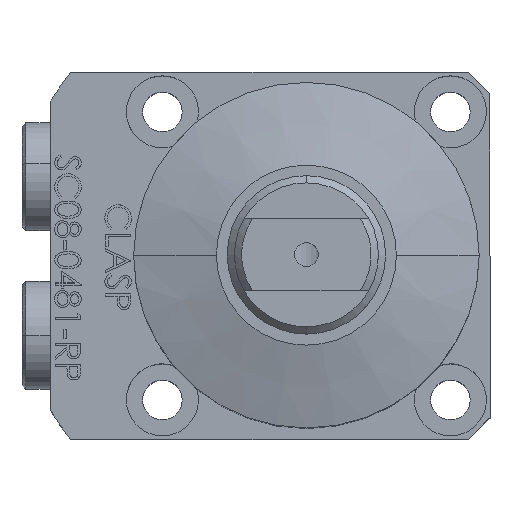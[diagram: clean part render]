
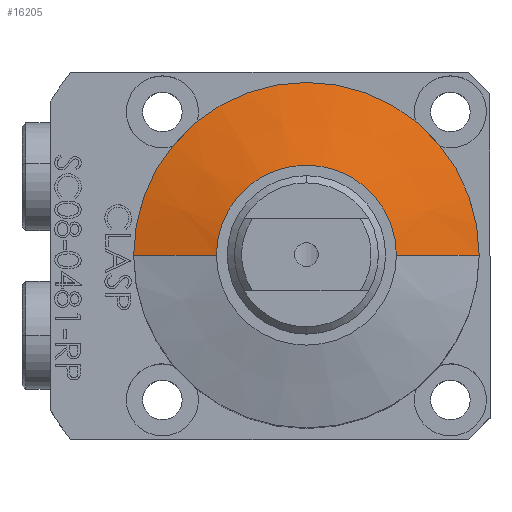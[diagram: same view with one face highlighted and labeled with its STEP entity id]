
A CAD part, top view. The second image highlights one B-rep face of the part: STEP entity #16205.
In plain terms, the highlighted conical face has half-angle 75 degrees and reference radius 60 mm.
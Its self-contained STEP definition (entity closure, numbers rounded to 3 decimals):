
#148 = DIRECTION ( 'NONE',  ( 0., 0., 1. ) ) ;
#225 = DIRECTION ( 'NONE',  ( 0.966, 0., -0.259 ) ) ;
#331 = CARTESIAN_POINT ( 'NONE',  ( -12.5, 0., 80. ) ) ;
#534 = EDGE_CURVE ( 'NONE', #7814, #10719, #2536, .T. ) ;
#2000 = DIRECTION ( 'NONE',  ( -0.966, 0., -0.259 ) ) ;
#2536 = LINE ( 'NONE', #7887, #5905 ) ;
#3962 = AXIS2_PLACEMENT_3D ( 'NONE', #5903, #15080, #7182 ) ;
#4218 = AXIS2_PLACEMENT_3D ( 'NONE', #12431, #4653, #14975 ) ;
#4637 = CARTESIAN_POINT ( 'NONE',  ( 24., 0., 76.919 ) ) ;
#4653 = DIRECTION ( 'NONE',  ( 0., 0., -1. ) ) ;
#5006 = CARTESIAN_POINT ( 'NONE',  ( 12.5, 0., 80. ) ) ;
#5111 = VECTOR ( 'NONE', #2000, 1000. ) ;
#5485 = ORIENTED_EDGE ( 'NONE', *, *, #9775, .T. ) ;
#5903 = CARTESIAN_POINT ( 'NONE',  ( 0., 0., 76.919 ) ) ;
#5905 = VECTOR ( 'NONE', #225, 1000. ) ;
#6567 = EDGE_LOOP ( 'NONE', ( #12278, #16359, #5485, #7184 ) ) ;
#6672 = CARTESIAN_POINT ( 'NONE',  ( -24., 0., 76.919 ) ) ;
#7073 = CARTESIAN_POINT ( 'NONE',  ( -60., 0., 67.272 ) ) ;
#7182 = DIRECTION ( 'NONE',  ( -1., 0., 0. ) ) ;
#7184 = ORIENTED_EDGE ( 'NONE', *, *, #11083, .F. ) ;
#7803 = CARTESIAN_POINT ( 'NONE',  ( 0., 0., 80. ) ) ;
#7814 = VERTEX_POINT ( 'NONE', #5006 ) ;
#7887 = CARTESIAN_POINT ( 'NONE',  ( 60., 0., 67.272 ) ) ;
#8160 = AXIS2_PLACEMENT_3D ( 'NONE', #7803, #148, #9111 ) ;
#8637 = CONICAL_SURFACE ( 'NONE', #4218, 60., 1.309 ) ;
#9111 = DIRECTION ( 'NONE',  ( 1., 0., 0. ) ) ;
#9526 = CIRCLE ( 'NONE', #8160, 12.5 ) ;
#9775 = EDGE_CURVE ( 'NONE', #10719, #16298, #12482, .T. ) ;
#10719 = VERTEX_POINT ( 'NONE', #4637 ) ;
#11083 = EDGE_CURVE ( 'NONE', #13213, #16298, #15555, .T. ) ;
#12278 = ORIENTED_EDGE ( 'NONE', *, *, #12452, .F. ) ;
#12431 = CARTESIAN_POINT ( 'NONE',  ( 0., 0., 67.272 ) ) ;
#12452 = EDGE_CURVE ( 'NONE', #7814, #13213, #9526, .T. ) ;
#12482 = CIRCLE ( 'NONE', #3962, 24. ) ;
#12954 = FACE_OUTER_BOUND ( 'NONE', #6567, .T. ) ;
#13213 = VERTEX_POINT ( 'NONE', #331 ) ;
#14975 = DIRECTION ( 'NONE',  ( -1., 0., 0. ) ) ;
#15080 = DIRECTION ( 'NONE',  ( 0., 0., 1. ) ) ;
#15555 = LINE ( 'NONE', #7073, #5111 ) ;
#16205 = ADVANCED_FACE ( 'NONE', ( #12954 ), #8637, .T. ) ;
#16298 = VERTEX_POINT ( 'NONE', #6672 ) ;
#16359 = ORIENTED_EDGE ( 'NONE', *, *, #534, .T. ) ;
